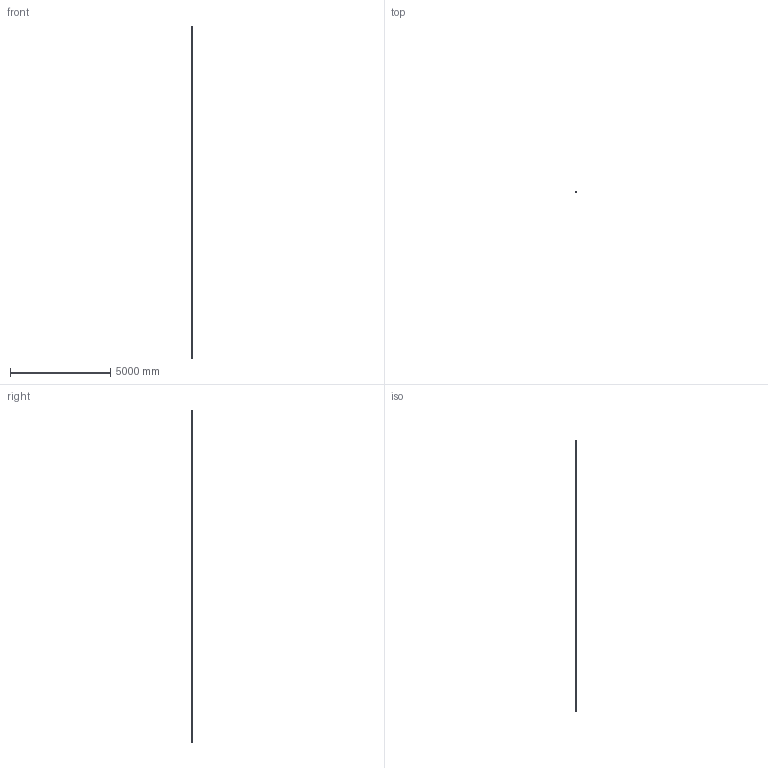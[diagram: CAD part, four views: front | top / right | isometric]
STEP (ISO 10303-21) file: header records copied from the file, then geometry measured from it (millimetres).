
FILE_DESCRIPTION (( 'STEP AP214' ), '1' );
FILE_NAME ('7029-2563.STEP', '2018-09-11T18:43:34', ( '' ), ( '' ), 'SwSTEP 2.0', 'SolidWorks 2016', '' );
FILE_SCHEMA (( 'AUTOMOTIVE_DESIGN' ));
Length unit declared in the file: inch
Products named in the file (1): 7029-2563
Bounding box: 6.35 x 7.33 x 16520.24 mm (x, y, z)
Volume: 84028.7 mm3; surface area: 132126 mm2
Topology: 1 solids, 1 shells, 117 faces, 285 edges, 180 vertices
Faces by surface type: cylinder 39, plane 36, cone 26, torus 16
Entity records: 5245 total; most frequent: CARTESIAN_POINT 1074, DIRECTION 585, ORIENTED_EDGE 570, EDGE_CURVE 285, AXIS2_PLACEMENT_3D 242, VERTEX_POINT 180, EDGE_LOOP 127, CIRCLE 124
